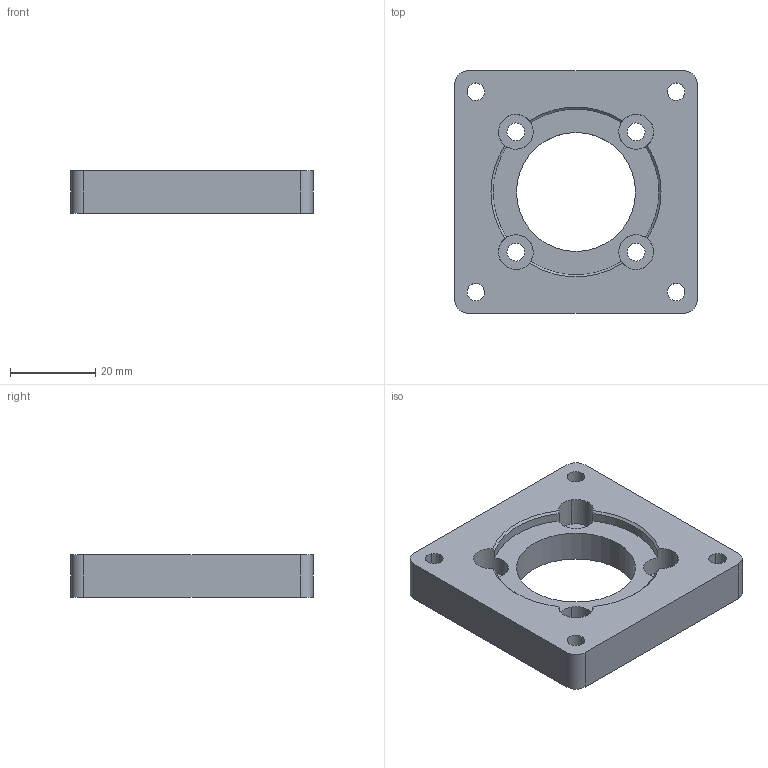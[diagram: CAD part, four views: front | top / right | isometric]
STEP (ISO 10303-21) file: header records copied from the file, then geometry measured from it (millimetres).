
FILE_DESCRIPTION(('CATIA V5 STEP Exchange'),'2;1');
FILE_NAME('N:\Kit car 2\CNC\Adaptateur nema 23\NEMA23_Bracket.stp','2016-05-18T16:57:48+00:00',('none'),('none'),'CATIA Version 5 Release 21 SP 3 (IN-10)','CATIA V5 STEP AP203','none');
FILE_SCHEMA(('CONFIG_CONTROL_DESIGN'));
Length unit declared in the file: millimetre
Products named in the file (1): NEMA23_Bracket
Bounding box: 57 x 57 x 10 mm (x, y, z)
Volume: 22777.3 mm3; surface area: 9404.2 mm2
Topology: 1 solids, 1 shells, 51 faces, 146 edges, 98 vertices
Faces by surface type: cylinder 36, plane 11, cone 4
Entity records: 1617 total; most frequent: CARTESIAN_POINT 299, ORIENTED_EDGE 292, DIRECTION 198, EDGE_CURVE 146, AXIS2_PLACEMENT_3D 117, VERTEX_POINT 98, CIRCLE 86, EDGE_LOOP 70
